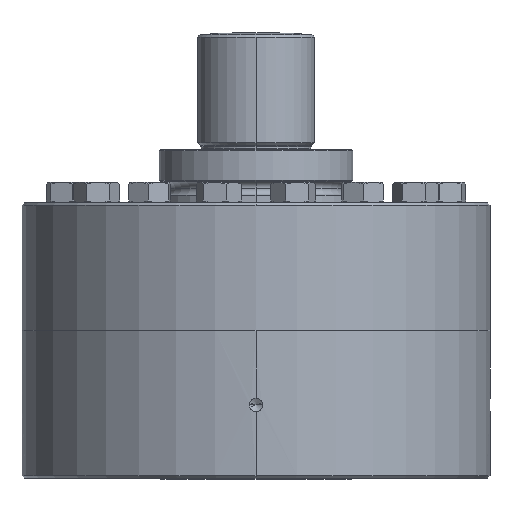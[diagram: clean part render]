
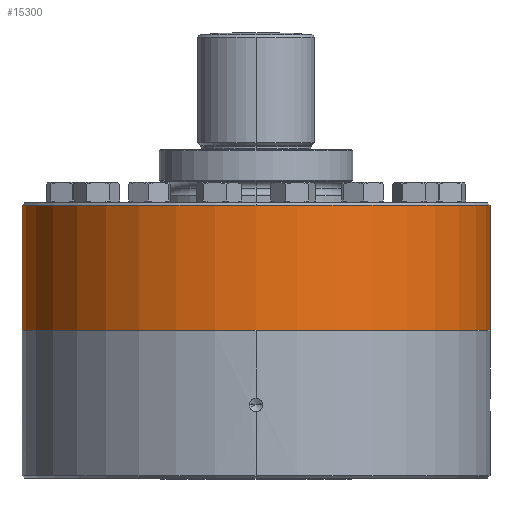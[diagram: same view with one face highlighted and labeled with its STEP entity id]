
A CAD part, left-side view. The second image highlights one B-rep face of the part: STEP entity #15300.
In plain terms, the highlighted cylindrical face has radius 139.649 mm (diameter 279.298 mm), a partial arc.
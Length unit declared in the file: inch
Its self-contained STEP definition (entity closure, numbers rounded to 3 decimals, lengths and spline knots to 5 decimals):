
#1300 = ORIENTED_EDGE ( 'NONE', *, *, #16036, .T. ) ;
#1899 = ORIENTED_EDGE ( 'NONE', *, *, #6071, .T. ) ;
#2489 = EDGE_CURVE ( 'NONE', #10015, #5759, #12337, .T. ) ;
#2656 = VERTEX_POINT ( 'NONE', #12461 ) ;
#2917 = ORIENTED_EDGE ( 'NONE', *, *, #2489, .T. ) ;
#3499 = CARTESIAN_POINT ( 'NONE',  ( 0., -5.498, -0.06 ) ) ;
#5759 = VERTEX_POINT ( 'NONE', #14553 ) ;
#5998 = EDGE_CURVE ( 'NONE', #2656, #14938, #14656, .T. ) ;
#6071 = EDGE_CURVE ( 'NONE', #5759, #7082, #14708, .T. ) ;
#7082 = VERTEX_POINT ( 'NONE', #15346 ) ;
#7211 = EDGE_CURVE ( 'NONE', #10015, #2656, #15429, .T. ) ;
#7731 = CARTESIAN_POINT ( 'NONE',  ( 0., 5.498, -3. ) ) ;
#8059 = FACE_OUTER_BOUND ( 'NONE', #15021, .T. ) ;
#8060 = CYLINDRICAL_SURFACE ( 'NONE', #8061, 5.498 ) ;
#8061 = AXIS2_PLACEMENT_3D ( 'NONE', #8062, #8063, #8064 ) ;
#8062 = CARTESIAN_POINT ( 'NONE',  ( 0., 0., -0.06 ) ) ;
#8063 = DIRECTION ( 'NONE',  ( 0., 0., -1. ) ) ;
#8064 = DIRECTION ( 'NONE',  ( 0., 1., 0. ) ) ;
#8501 = LINE ( 'NONE', #8502, #8503 ) ;
#8502 = CARTESIAN_POINT ( 'NONE',  ( 0., 5.498, -0.06 ) ) ;
#8503 = VECTOR ( 'NONE', #8504, 39.37008 ) ;
#8504 = DIRECTION ( 'NONE',  ( 0., 0., -1. ) ) ;
#10015 = VERTEX_POINT ( 'NONE', #3499 ) ;
#10899 = ORIENTED_EDGE ( 'NONE', *, *, #5998, .F. ) ;
#12337 = CIRCLE ( 'NONE', #12338, 5.498 ) ;
#12338 = AXIS2_PLACEMENT_3D ( 'NONE', #12339, #12347, #12348 ) ;
#12339 = CARTESIAN_POINT ( 'NONE',  ( 0., 0., -0.06 ) ) ;
#12347 = DIRECTION ( 'NONE',  ( 0., 0., -1. ) ) ;
#12348 = DIRECTION ( 'NONE',  ( -1., 0., 0. ) ) ;
#12461 = CARTESIAN_POINT ( 'NONE',  ( 0., -5.498, -3. ) ) ;
#14420 = ORIENTED_EDGE ( 'NONE', *, *, #7211, .F. ) ;
#14553 = CARTESIAN_POINT ( 'NONE',  ( -5.498, 0., -0.06 ) ) ;
#14656 = CIRCLE ( 'NONE', #14657, 5.498 ) ;
#14657 = AXIS2_PLACEMENT_3D ( 'NONE', #14658, #14659, #14661 ) ;
#14658 = CARTESIAN_POINT ( 'NONE',  ( 0., 0., -3. ) ) ;
#14659 = DIRECTION ( 'NONE',  ( 0., 0., -1. ) ) ;
#14661 = DIRECTION ( 'NONE',  ( 0., 1., 0. ) ) ;
#14708 = CIRCLE ( 'NONE', #14709, 5.498 ) ;
#14709 = AXIS2_PLACEMENT_3D ( 'NONE', #14710, #14711, #14712 ) ;
#14710 = CARTESIAN_POINT ( 'NONE',  ( 0., 0., -0.06 ) ) ;
#14711 = DIRECTION ( 'NONE',  ( 0., 0., -1. ) ) ;
#14712 = DIRECTION ( 'NONE',  ( -1., 0., 0. ) ) ;
#14938 = VERTEX_POINT ( 'NONE', #7731 ) ;
#15021 = EDGE_LOOP ( 'NONE', ( #14420, #2917, #1899, #1300, #10899 ) ) ;
#15300 = ADVANCED_FACE ( 'NONE', ( #8059 ), #8060, .T. ) ;
#15346 = CARTESIAN_POINT ( 'NONE',  ( 0., 5.498, -0.06 ) ) ;
#15429 = LINE ( 'NONE', #15430, #15436 ) ;
#15430 = CARTESIAN_POINT ( 'NONE',  ( 0., -5.498, -0.06 ) ) ;
#15436 = VECTOR ( 'NONE', #15437, 39.37008 ) ;
#15437 = DIRECTION ( 'NONE',  ( 0., 0., -1. ) ) ;
#16036 = EDGE_CURVE ( 'NONE', #7082, #14938, #8501, .T. ) ;
